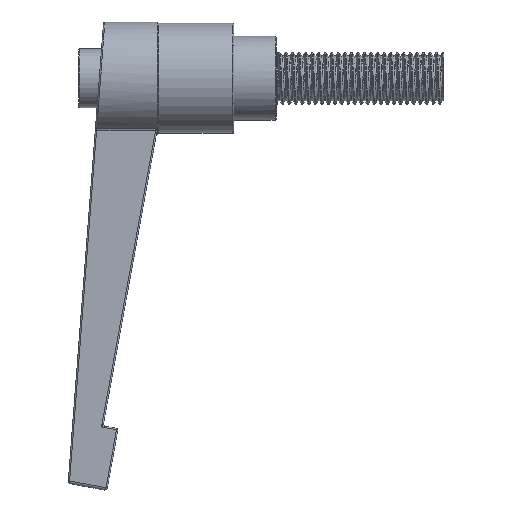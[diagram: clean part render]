
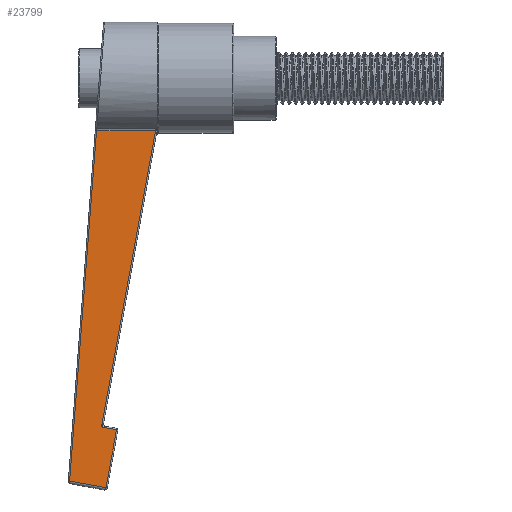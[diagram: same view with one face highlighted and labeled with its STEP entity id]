
A CAD part, left-side view. The second image highlights one B-rep face of the part: STEP entity #23799.
In plain terms, the highlighted planar face has unit normal (-1, 0, 0).
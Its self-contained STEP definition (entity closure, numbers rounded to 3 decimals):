
#780 = LINE ( 'NONE', #10804, #7889 ) ;
#2218 = CARTESIAN_POINT ( 'NONE',  ( -4.65, 11.573, -0.308 ) ) ;
#2321 = EDGE_CURVE ( 'NONE', #24131, #10276, #24954, .T. ) ;
#2332 = CARTESIAN_POINT ( 'NONE',  ( -4.65, 9.778, -68.463 ) ) ;
#2625 = EDGE_CURVE ( 'NONE', #12347, #29579, #7722, .T. ) ;
#2783 = LINE ( 'NONE', #13513, #4634 ) ;
#2820 = ORIENTED_EDGE ( 'NONE', *, *, #31083, .T. ) ;
#3646 = LINE ( 'NONE', #9459, #33755 ) ;
#4120 = VECTOR ( 'NONE', #8055, 1000. ) ;
#4625 = EDGE_LOOP ( 'NONE', ( #30600, #2820, #27785, #28306, #12446, #13047, #19264 ) ) ;
#4634 = VECTOR ( 'NONE', #10882, 1000. ) ;
#5379 = VECTOR ( 'NONE', #25260, 1000. ) ;
#6049 = FACE_OUTER_BOUND ( 'NONE', #4625, .T. ) ;
#6298 = DIRECTION ( 'NONE',  ( 0., 0.077, -0.997 ) ) ;
#6500 = DIRECTION ( 'NONE',  ( 0., 0.984, 0.179 ) ) ;
#7396 = VECTOR ( 'NONE', #6500, 1000. ) ;
#7722 = LINE ( 'NONE', #12999, #4120 ) ;
#7889 = VECTOR ( 'NONE', #16061, 1000. ) ;
#8055 = DIRECTION ( 'NONE',  ( 0., -0.984, -0.179 ) ) ;
#9459 = CARTESIAN_POINT ( 'NONE',  ( -4.65, 16.751, -67.673 ) ) ;
#10221 = CARTESIAN_POINT ( 'NONE',  ( -4.65, 11.522, -0.31 ) ) ;
#10276 = VERTEX_POINT ( 'NONE', #21685 ) ;
#10804 = CARTESIAN_POINT ( 'NONE',  ( -4.65, 0.246, 0.045 ) ) ;
#10882 = DIRECTION ( 'NONE',  ( 0., -0.179, 0.984 ) ) ;
#11332 = PLANE ( 'NONE',  #34553 ) ;
#11629 = VERTEX_POINT ( 'NONE', #23869 ) ;
#12347 = VERTEX_POINT ( 'NONE', #19687 ) ;
#12446 = ORIENTED_EDGE ( 'NONE', *, *, #15695, .T. ) ;
#12861 = CARTESIAN_POINT ( 'NONE',  ( -4.65, 11.539, -0.31 ) ) ;
#12999 = CARTESIAN_POINT ( 'NONE',  ( -4.65, 9.778, -68.463 ) ) ;
#13047 = ORIENTED_EDGE ( 'NONE', *, *, #2321, .T. ) ;
#13513 = CARTESIAN_POINT ( 'NONE',  ( -4.65, 7.714, -57.15 ) ) ;
#15469 = CARTESIAN_POINT ( 'NONE',  ( -4.65, 11.556, -0.309 ) ) ;
#15695 = EDGE_CURVE ( 'NONE', #29579, #24131, #2783, .T. ) ;
#16061 = DIRECTION ( 'NONE',  ( 0., -0.179, 0.984 ) ) ;
#16614 = EDGE_CURVE ( 'NONE', #22760, #12347, #3646, .T. ) ;
#17526 = CARTESIAN_POINT ( 'NONE',  ( -4.65, 0., -0.31 ) ) ;
#19264 = ORIENTED_EDGE ( 'NONE', *, *, #34160, .T. ) ;
#19687 = CARTESIAN_POINT ( 'NONE',  ( -4.65, 16.714, -67.198 ) ) ;
#19755 = CARTESIAN_POINT ( 'NONE',  ( -4.65, 0., 0. ) ) ;
#20797 = DIRECTION ( 'NONE',  ( -1., 0., 0. ) ) ;
#21685 = CARTESIAN_POINT ( 'NONE',  ( -4.65, 10.63, -56.872 ) ) ;
#22523 = CARTESIAN_POINT ( 'NONE',  ( -4.65, 7.759, -57.396 ) ) ;
#22737 = DIRECTION ( 'NONE',  ( 0., 0., 1. ) ) ;
#22760 = VERTEX_POINT ( 'NONE', #2218 ) ;
#23799 = ADVANCED_FACE ( 'NONE', ( #6049 ), #11332, .T. ) ;
#23869 = CARTESIAN_POINT ( 'NONE',  ( -4.65, 0.311, -0.31 ) ) ;
#24131 = VERTEX_POINT ( 'NONE', #22523 ) ;
#24954 = LINE ( 'NONE', #27397, #7396 ) ;
#25260 = DIRECTION ( 'NONE',  ( 0., 1., 0. ) ) ;
#25451 = EDGE_CURVE ( 'NONE', #11629, #33015, #30678, .T. ) ;
#26191 = CARTESIAN_POINT ( 'NONE',  ( -4.65, 11.573, -0.308 ) ) ;
#26833 = B_SPLINE_CURVE_WITH_KNOTS ( 'NONE', 3,
 ( #33731, #12861, #15469, #26191 ),
 .UNSPECIFIED., .F., .F.,
 ( 4, 4 ),
 ( 0., 0. ),
 .UNSPECIFIED. ) ;
#27397 = CARTESIAN_POINT ( 'NONE',  ( -4.65, 10.384, -56.917 ) ) ;
#27785 = ORIENTED_EDGE ( 'NONE', *, *, #16614, .T. ) ;
#28306 = ORIENTED_EDGE ( 'NONE', *, *, #2625, .T. ) ;
#29579 = VERTEX_POINT ( 'NONE', #2332 ) ;
#30600 = ORIENTED_EDGE ( 'NONE', *, *, #25451, .T. ) ;
#30678 = LINE ( 'NONE', #17526, #5379 ) ;
#31083 = EDGE_CURVE ( 'NONE', #33015, #22760, #26833, .T. ) ;
#33015 = VERTEX_POINT ( 'NONE', #10221 ) ;
#33731 = CARTESIAN_POINT ( 'NONE',  ( -4.65, 11.522, -0.31 ) ) ;
#33755 = VECTOR ( 'NONE', #6298, 1000. ) ;
#34160 = EDGE_CURVE ( 'NONE', #10276, #11629, #780, .T. ) ;
#34553 = AXIS2_PLACEMENT_3D ( 'NONE', #19755, #20797, #22737 ) ;
